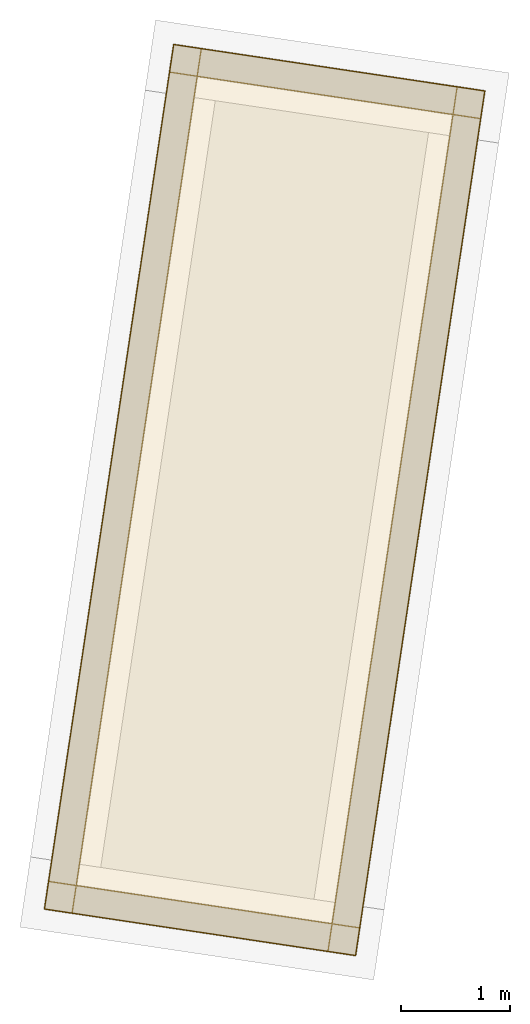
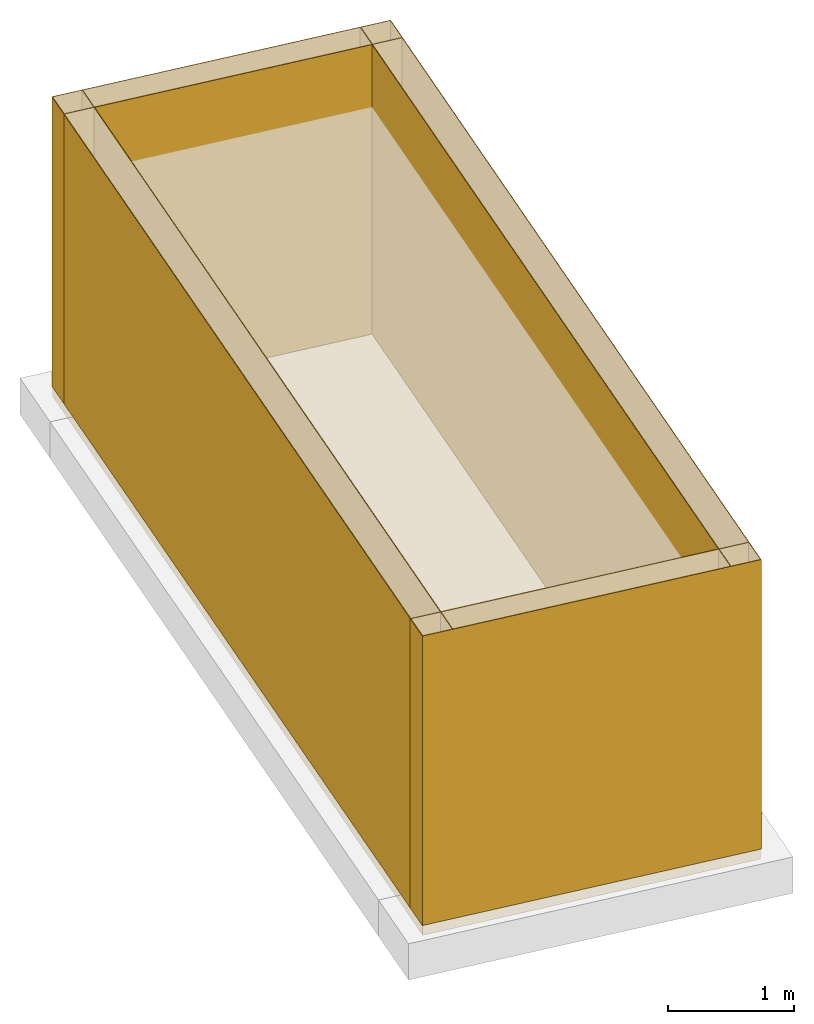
# One storey, part 2 of 3: 5 coverings, 1 element without a shape of its own.
"""IFC4 building model written with IfcOpenShell, lengths in metres."""

import ifcopenshell
import ifcopenshell.guid

model = None  # the IFC model being written
_history = None  # IfcOwnerHistory: only IFC2X3 demands one
_inside = {}  # id of a spatial element -> (the spatial element, [elements in it])
_under = {}  # id of a project, library or spatial element -> (it, [spatial elements below it])
_declared = {}  # id of a project -> (the project, [libraries it declares])
_typed = {}  # id of a type object -> (the type object, [elements of that type])
_made_of = {}  # id of a material, layer set ... -> (it, [elements and type objects made of it])


def new_model(schema):
    """Start an empty IFC model of exactly this schema.

    Asked for "IFC4X3", IfcOpenShell would pick the latest addendum, in which some entities
    have other attributes; the version numbers below select the first issue.
    IFC2X3 requires an IfcOwnerHistory on every rooted entity: one is made here for all.
    """
    global model, _history
    if schema == "IFC4X3":
        model = ifcopenshell.file(schema_version=(4, 3, 0, 0))
    else:
        model = ifcopenshell.file(schema=schema)
    _inside.clear()
    _under.clear()
    _declared.clear()
    _typed.clear()
    _made_of.clear()
    _history = None
    if model.schema == "IFC2X3":
        org = make("IfcOrganization", Name="unknown")
        user = make(
            "IfcPersonAndOrganization",
            ThePerson=make("IfcPerson", FamilyName="unknown"),
            TheOrganization=org,
        )
        app = make(
            "IfcApplication",
            ApplicationDeveloper=org,
            Version="unknown",
            ApplicationFullName="unknown",
            ApplicationIdentifier="unknown",
        )
        _history = make(
            "IfcOwnerHistory",
            OwningUser=user,
            OwningApplication=app,
            ChangeAction="ADDED",
            CreationDate=0,
        )
    return model


def make(cls, **values):
    """One entity of the class cls with the attributes given. An attribute that is None is left unset."""
    return model.create_entity(
        cls, **{name: value for name, value in values.items() if value is not None}
    )


def rooted(cls, **values):
    """An entity with a GlobalId (a new one), such as an element, a storey or a relation."""
    return make(cls, GlobalId=ifcopenshell.guid.new(), OwnerHistory=_history, **values)


def si_unit(unit_type, name, prefix=None):
    """IfcSIUnit, for example si_unit("LENGTHUNIT", "METRE", prefix="MILLI")."""
    return make("IfcSIUnit", UnitType=unit_type, Prefix=prefix, Name=name)


def assignment(units):
    """IfcUnitAssignment: the units of a project."""
    return None if units is None else make("IfcUnitAssignment", Units=units)


def point(xyz):
    """IfcCartesianPoint."""
    return None if xyz is None else make("IfcCartesianPoint", Coordinates=xyz)


def direction(xyz):
    """IfcDirection."""
    return None if xyz is None else make("IfcDirection", DirectionRatios=xyz)


def frame(location, z_axis=None, x_axis=None):
    """IfcAxis2Placement3D, a coordinate frame: its origin and axes. An axis left out is left unset."""
    return make(
        "IfcAxis2Placement3D",
        Location=point(location),
        Axis=direction(z_axis),
        RefDirection=direction(x_axis),
    )


def origin_with_axes():
    """The frame at (0, 0, 0) with the z axis (0, 0, 1) and the x axis (1, 0, 0) written out."""
    return frame((0.0, 0.0, 0.0), z_axis=(0.0, 0.0, 1.0), x_axis=(1.0, 0.0, 0.0))


def place(relative_to, where):
    """IfcLocalPlacement: puts the frame where relative to a parent placement (None: the world)."""
    return make(
        "IfcLocalPlacement", PlacementRelTo=relative_to, RelativePlacement=where
    )


def context(
    kind, dimensions, precision=None, world=None, true_north=None, identifier=None
):
    """IfcGeometricRepresentationContext, for example the 3D "Model" context."""
    return make(
        "IfcGeometricRepresentationContext",
        ContextIdentifier=identifier,
        ContextType=kind,
        CoordinateSpaceDimension=dimensions,
        Precision=precision,
        WorldCoordinateSystem=world,
        TrueNorth=true_north,
    )


def subcontext(parent, identifier, kind, view, scale=None):
    """IfcGeometricRepresentationSubContext, for example "Body" below "Model"."""
    return make(
        "IfcGeometricRepresentationSubContext",
        ContextIdentifier=identifier,
        ContextType=kind,
        ParentContext=parent,
        TargetScale=scale,
        TargetView=view,
    )


def project(units=None, contexts=None):
    """IfcProject with its units and contexts."""
    return rooted(
        "IfcProject",
        Name="project",
        RepresentationContexts=contexts,
        UnitsInContext=assignment(units),
    )


def spatial(cls, under=None, at=None, **own):
    """A site, building, storey or space (cls), placed at a placement, below another one or the project."""
    s = rooted(cls, ObjectPlacement=at, **own)
    if under is not None:
        _under.setdefault(under.id(), (under, []))[1].append(s)
    return s


def polyline(points):
    """IfcPolyline through the points."""
    return make("IfcPolyline", Points=[point(p) for p in points])


def outline(outer, holes=None, kind="AREA"):
    """IfcArbitraryClosedProfileDef: a profile drawn as a closed curve; with holes, ...WithVoids."""
    if holes is None:
        return make("IfcArbitraryClosedProfileDef", ProfileType=kind, OuterCurve=outer)
    return make(
        "IfcArbitraryProfileDefWithVoids",
        ProfileType=kind,
        OuterCurve=outer,
        InnerCurves=holes,
    )


def extrude(swept, where, along, depth):
    """IfcExtrudedAreaSolid: the profile swept, set in the frame where, extruded along a direction by depth."""
    return make(
        "IfcExtrudedAreaSolid",
        SweptArea=swept,
        Position=where,
        ExtrudedDirection=direction(along),
        Depth=depth,
    )


def shape(context_of_items, identifier, shape_type, items):
    """IfcShapeRepresentation: the items that make up one representation, for example the "Body"."""
    return make(
        "IfcShapeRepresentation",
        ContextOfItems=context_of_items,
        RepresentationIdentifier=identifier,
        RepresentationType=shape_type,
        Items=items,
    )


def material(Name=None, Category=None):
    """IfcMaterial."""
    return make("IfcMaterial", Name=Name, Category=Category)


def made_of(thing, what):
    """Note that an element or type object is made of a material, layer set ...; save() writes the relation."""
    if what is not None:
        _made_of.setdefault(what.id(), (what, []))[1].append(thing)
    return thing


def element(
    cls,
    number,
    at=None,
    inside=None,
    cuts=None,
    type_object=None,
    material=None,
    context=None,
    identifier="Body",
    shape_type=None,
    held_by="IfcProductDefinitionShape",
    body=None,
    shapes=None,
    **own,
):
    """One element of the class cls, such as IfcWall. Its Tag is "e" and its number.

    at: its placement. inside: the storey or other place that contains it. cuts: it is an
    opening in that element (IfcRelVoidsElement). A single representation is given by context,
    identifier, shape_type and body (its items); several are given by shapes. held_by: the class
    of the entity that holds the representations. save() writes the other relations.
    """
    e = rooted(cls, Tag="e%d" % number, ObjectPlacement=at, **own)
    if body is not None:
        shapes = [shape(context, identifier, shape_type, body)]
    if shapes is not None:
        e.Representation = make(held_by, Representations=shapes)
    if inside is not None:
        _inside.setdefault(inside.id(), (inside, []))[1].append(e)
    if cuts is not None:
        rooted(
            "IfcRelVoidsElement", RelatingBuildingElement=cuts, RelatedOpeningElement=e
        )
    if type_object is not None:
        _typed.setdefault(type_object.id(), (type_object, []))[1].append(e)
    return made_of(e, material)


def aggregate(whole, parts):
    """IfcRelAggregates: a whole, such as a stair, and the parts it consists of."""
    return rooted("IfcRelAggregates", RelatingObject=whole, RelatedObjects=parts)


def save(model, path):
    """Write the relations noted so far, then the file.

    IfcRelAggregates (storeys below a building ...), IfcRelContainedInSpatialStructure (elements
    in a storey), IfcRelDefinesByType, IfcRelAssociatesMaterial and IfcRelDeclares: one each for
    every whole, place, type object, material and project.
    """
    for whole, parts in _under.values():
        aggregate(whole, parts)
    for where, things in _inside.values():
        rooted(
            "IfcRelContainedInSpatialStructure",
            RelatedElements=things,
            RelatingStructure=where,
        )
    for kind, things in _typed.values():
        rooted("IfcRelDefinesByType", RelatedObjects=things, RelatingType=kind)
    for what, things in _made_of.values():
        rooted("IfcRelAssociatesMaterial", RelatedObjects=things, RelatingMaterial=what)
    for by, libraries in _declared.values():
        rooted("IfcRelDeclares", RelatingContext=by, RelatedDefinitions=libraries)
    model.write(path)


model = new_model("IFC4")

# Units and contexts
model_context = context("Model", 3, precision=1e-05, world=origin_with_axes(), true_north=direction((0.0, 1.0)))
body_context = subcontext(model_context, "Body", "Model", "MODEL_VIEW")
ifc_project = project(units=[si_unit("LENGTHUNIT", "METRE"), si_unit("AREAUNIT", "SQUARE_METRE"), si_unit("VOLUMEUNIT", "CUBIC_METRE")], contexts=[model_context])

# Site, building, storey
site_placement = place(None, origin_with_axes())
site = spatial("IfcSite", under=ifc_project, at=site_placement, Name="Lares · Rua das Mercês · artigo 4771")
building_placement = place(site_placement, frame((15.0, 9.7, 14.65), z_axis=(0.0, 0.0, 1.0), x_axis=(0.989015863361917, -0.147809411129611, 0.0)))
building = spatial("IfcBuilding", under=site, at=building_placement, Name="Casa Sobreposta")
storey_placement = place(building_placement, frame((0.0, 0.0, -2.6), z_axis=(0.0, 0.0, 1.0), x_axis=(1.0, 0.0, 0.0)))
storey = spatial("IfcBuildingStorey", under=building, at=storey_placement, Name="-01 · Cisterna sob o terraço", Elevation=12.05)

# Tank, coverings
tank_placement = place(storey_placement, frame((0.0, 0.0, 2.6), z_axis=(0.0, 0.0, 1.0), x_axis=(1.0, 0.0, 0.0)))
tank = element("IfcTank", 1, at=tank_placement, inside=storey, Name="Cisterna · reservatório pluvial de estudo", ObjectType="RAINWATER_CISTERN", PredefinedType="STORAGE")
ifc_material_1 = material(Name="Brita drenante", Category="stone")
covering_1_placement = place(tank_placement, frame((0.0, 0.0, -2.9), z_axis=(0.0, 0.0, 1.0), x_axis=(1.0, 0.0, 0.0)))
covering_1 = element("IfcCovering", 2, at=covering_1_placement, material=ifc_material_1, Name="Cisterna · camada drenante 100 mm", PredefinedType="FLOORING", context=body_context, shape_type="SweptSolid", body=[
    extrude(outline(polyline([(-3.25, -1.55), (-3.25, 6.45), (-6.125, 6.45), (-6.125, -1.55), (-3.25, -1.55)])), origin_with_axes(), (0.0, 0.0, 1.0), 0.1),
])
ifc_material_2 = material(Name="Membrana impermeável — hipótese", Category="membrane")
covering_2_placement = place(tank_placement, frame((0.0, 0.0, -2.8), z_axis=(0.0, 0.0, 1.0), x_axis=(1.0, 0.0, 0.0)))
covering_2 = element("IfcCovering", 3, at=covering_2_placement, material=ifc_material_2, Name="Cisterna · impermeabilização poente", PredefinedType="MEMBRANE", context=body_context, shape_type="SweptSolid", body=[
    extrude(outline(polyline([(-6.131, 6.456), (-5.869, 6.456), (-5.869, -1.425), (-5.869, -1.556), (-6.131, -1.556), (-6.131, 6.325), (-6.131, 6.456)]), holes=[polyline([(-6.125, -1.55), (-5.875, -1.55), (-5.875, -1.425), (-5.875, 6.45), (-6.125, 6.45), (-6.125, 6.325), (-6.125, -1.55)])]), origin_with_axes(), (0.0, 0.0, 1.0), 2.8),
])
covering_3_placement = place(tank_placement, frame((0.0, 0.0, -2.8), z_axis=(0.0, 0.0, 1.0), x_axis=(1.0, 0.0, 0.0)))
covering_3 = element("IfcCovering", 4, at=covering_3_placement, material=ifc_material_2, Name="Cisterna · impermeabilização norte", PredefinedType="MEMBRANE", context=body_context, shape_type="SweptSolid", body=[
    extrude(outline(polyline([(-3.244, 6.456), (-3.244, 6.194), (-6.0, 6.194), (-6.131, 6.194), (-6.131, 6.456), (-3.375, 6.456), (-3.244, 6.456)]), holes=[polyline([(-6.125, 6.45), (-6.125, 6.2), (-6.0, 6.2), (-3.25, 6.2), (-3.25, 6.45), (-3.375, 6.45), (-6.125, 6.45)])]), origin_with_axes(), (0.0, 0.0, 1.0), 2.8),
])
covering_4_placement = place(tank_placement, frame((0.0, 0.0, -2.8), z_axis=(0.0, 0.0, 1.0), x_axis=(1.0, 0.0, 0.0)))
covering_4 = element("IfcCovering", 5, at=covering_4_placement, material=ifc_material_2, Name="Cisterna · impermeabilização sul", PredefinedType="MEMBRANE", context=body_context, shape_type="SweptSolid", body=[
    extrude(outline(polyline([(-3.244, -1.294), (-3.244, -1.556), (-6.0, -1.556), (-6.131, -1.556), (-6.131, -1.294), (-3.375, -1.294), (-3.244, -1.294)]), holes=[polyline([(-6.125, -1.3), (-6.125, -1.55), (-6.0, -1.55), (-3.25, -1.55), (-3.25, -1.3), (-3.375, -1.3), (-6.125, -1.3)])]), origin_with_axes(), (0.0, 0.0, 1.0), 2.8),
])
covering_5_placement = place(tank_placement, frame((0.0, 0.0, -2.8), z_axis=(0.0, 0.0, 1.0), x_axis=(1.0, 0.0, 0.0)))
covering_5 = element("IfcCovering", 6, at=covering_5_placement, material=ifc_material_2, Name="Cisterna · impermeabilização nascente", PredefinedType="MEMBRANE", context=body_context, shape_type="SweptSolid", body=[
    extrude(outline(polyline([(-3.506, 6.456), (-3.244, 6.456), (-3.244, -1.425), (-3.244, -1.556), (-3.506, -1.556), (-3.506, 6.325), (-3.506, 6.456)]), holes=[polyline([(-3.5, -1.55), (-3.25, -1.55), (-3.25, -1.425), (-3.25, 6.45), (-3.5, 6.45), (-3.5, 6.325), (-3.5, -1.55)])]), origin_with_axes(), (0.0, 0.0, 1.0), 2.8),
])
aggregate(tank, [covering_1, covering_2, covering_3, covering_4, covering_5])

save(model, "model.ifc")
